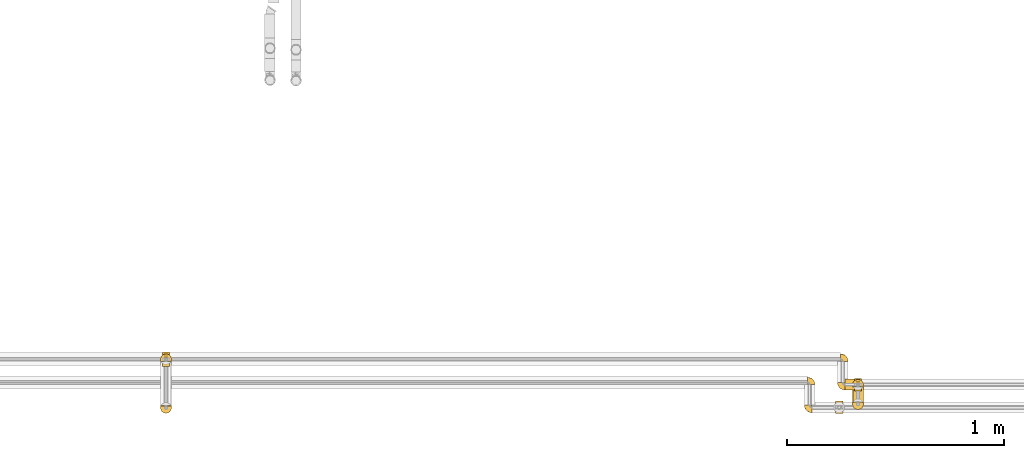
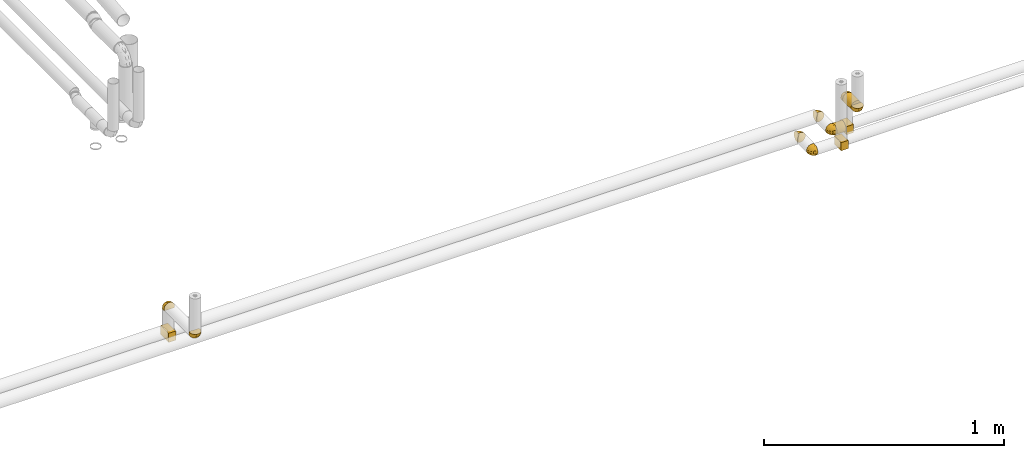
# One storey, part 12 of 156: 13 coverings.
"""IFC2X3 building model written with IfcOpenShell, lengths in millimetres."""

from ifc_helpers import new_model, entity, si_unit, converted_unit, derived_unit, direction, frame, origin_with_axes, origin_2d_with_axis, place, context, subcontext, project, spatial, hollow_circle, extrude, open_shell, surface_model, source, transform, mapped, element, save


model = new_model("IFC2X3")

# Units and contexts
model_context = context("Model", 3, precision=0.01, world=frame((0.0, 4.29681676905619e-09, 0.0)), true_north=direction((4.01073788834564e-13, 1.0)))
plan_context = context("Plan", 3, precision=0.01, world=frame((0.0, 4.29681676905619e-09, 0.0)), true_north=direction((4.01073788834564e-13, 1.0)))
body_context = subcontext(model_context, "Body", "Model", "MODEL_VIEW")
ifc_project = project(units=[converted_unit("PLANEANGLEUNIT", "DEGREE", entity("IfcPositiveLengthMeasure", 0.0174532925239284), si_unit("PLANEANGLEUNIT", "RADIAN"), dimensions=[0, 0, 0, 0, 0, 0, 0]), si_unit("AREAUNIT", "SQUARE_METRE"), si_unit("LENGTHUNIT", "METRE", prefix="MILLI"), si_unit("MASSUNIT", "GRAM", prefix="KILO"), si_unit("POWERUNIT", "WATT"), si_unit("PRESSUREUNIT", "PASCAL", prefix="KILO"), si_unit("FORCEUNIT", "NEWTON", prefix="KILO"), si_unit("ELECTRICVOLTAGEUNIT", "VOLT"), si_unit("ELECTRICCURRENTUNIT", "AMPERE"), si_unit("THERMODYNAMICTEMPERATUREUNIT", "DEGREE_CELSIUS"), si_unit("TIMEUNIT", "SECOND"), si_unit("VOLUMEUNIT", "CUBIC_METRE"), derived_unit("LINEARVELOCITYUNIT", [(si_unit("LENGTHUNIT", "METRE"), 1), (si_unit("TIMEUNIT", "SECOND"), -1)]), derived_unit("VOLUMETRICFLOWRATEUNIT", [(si_unit("VOLUMEUNIT", "CUBIC_METRE"), 1), (si_unit("TIMEUNIT", "SECOND"), -1)]), derived_unit("THERMALTRANSMITTANCEUNIT", [(si_unit("POWERUNIT", "WATT"), 1), (si_unit("THERMODYNAMICTEMPERATUREUNIT", "KELVIN"), -1), (si_unit("AREAUNIT", "SQUARE_METRE"), -1)]), derived_unit("SOUNDPRESSUREUNIT", [(si_unit("PRESSUREUNIT", "PASCAL"), 1)])], contexts=[model_context, plan_context])

# Site, building, storey
site_placement = place(None, frame((0.0, -4.29681676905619e-09, 0.0), z_axis=(0.0, 0.0, 1.0), x_axis=(1.0, 0.0, 0.0)))
site = spatial("IfcSite", under=ifc_project, at=site_placement, CompositionType="ELEMENT")
building_placement = place(site_placement, frame((0.0, 4.29681676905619e-09, 0.0), z_axis=(0.0, 0.0, 1.0), x_axis=(1.0, 0.0, 0.0)))
building = spatial("IfcBuilding", under=site, at=building_placement, Name="mc-building", CompositionType="ELEMENT")
storey_placement = place(building_placement, frame((0.0, 0.0, 205200.0), z_axis=(0.0, 0.0, 1.0), x_axis=(1.0, 0.0, 0.0)))
storey = spatial("IfcBuildingStorey", under=building, at=storey_placement, Name="Nivå D + 1,2 m", CompositionType="ELEMENT", Elevation=205200.0)

# Coverings
shared_shape_1 = source(origin_with_axes(), body_context, "Body", "SurfaceModel", [
    surface_model("IfcShellBasedSurfaceModel", [(-17.2, -12.9, 33.6), (-17.2, -12.9, -33.6), (17.2, -12.9, 33.6), (17.2, -12.9, -33.6), (17.2, 33.6, 33.6), (17.2, 33.6, -33.6), (-17.2, 33.6, 33.6), (-17.2, 33.6, -33.6)], [open_shell([[[0, 1, 2]], [[3, 2, 1]], [[4, 5, 6]], [[7, 6, 5]], [[3, 1, 7]], [[7, 5, 3]], [[2, 3, 5]], [[5, 4, 2]], [[0, 2, 4]], [[4, 6, 0]], [[1, 0, 6]], [[6, 7, 1]]])]),
])
covering_1_placement = place(storey_placement, frame((343033.7464, 459036.28651, 4203.32044000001), z_axis=(0.0, -1.0, 0.0), x_axis=(-1.0, 0.0, 0.0)))
element("IfcCovering", 1, at=covering_1_placement, inside=storey, Name="BI10T - Cellegummi 18-32 mm kalde rør", PredefinedType="INSULATION", context=body_context, shape_type="MappedRepresentation", body=[
    mapped(shared_shape_1, transform((0.0, 0.0, 0.0), scale=1.0)),
])
shared_shape_2 = source(origin_with_axes(), body_context, "Body", "SurfaceModel", [
    surface_model("IfcShellBasedSurfaceModel", [(15.59106, 10.0, 19.54275), (19.54869, 10.0, 15.5836), (22.52596, 10.0, 10.84348), (24.37392, 10.0, 5.55985), (-9.77037, 10.0, -23.01173), (0.0, 10.0, 25.0), (-4.97942, 10.0, 24.49909), (-9.77037, 10.0, 23.01173), (10.85104, 10.0, 22.52232), (5.5658, 10.0, 24.37256), (22.52232, 10.0, -10.85104), (25.0, 10.0, 0.0), (24.37256, 10.0, -5.5658), (19.54275, 10.0, -15.59106), (15.5836, 10.0, -19.54869), (5.55985, 10.0, -24.37392), (10.84348, 10.0, -22.52596), (0.0, 10.0, -25.0), (-4.9912, 10.0, -24.49669), (-10.0, 9.77037, -23.01173), (-10.0, 4.98531, -24.49789), (-10.0, -6.47048, -24.14815), (-10.0, 0.0, -25.0), (-10.0, 4.98531, 24.49789), (-10.0, 9.77037, 23.01173), (-10.0, -6.47048, 24.14815), (-10.0, 0.0, 25.0), (-10.0, -21.65064, -12.5), (-10.0, -12.5, -21.65064), (-10.0, -17.67767, -17.67767), (-10.0, -24.14815, -6.47048), (-10.0, -24.14815, 6.47048), (-10.0, -12.5, 21.65064), (-10.0, -17.67767, 17.67767), (-10.0, -21.65064, 12.5), (-10.0, -25.0, 0.0), (-9.83763, 9.83763, 23.01173), (-9.83763, 9.83763, -23.01173), (-1.77155, 10.0, -24.82136), (-2.92893, 2.92893, -25.0), (-10.0, 8.06996, -23.53985), (-1.3896, -21.95734, -9.56709), (-7.86085, 0.88606, -25.0), (-5.68917, -9.08632, -23.09699), (-5.36315, -4.22283, -24.50311), (-4.6967, 2.1967, -25.0), (-2.71409, -3.25736, -24.46852), (-6.46447, 1.46447, -25.0), (22.53316, 1.61684, -8.26039), (3.21095, -21.89405, -4.866), (7.5, -20.31089, 0.0), (-1.25, -22.65544, 0.0), (3.17946, -12.06338, -19.45532), (5.27461, -6.12177, -21.81624), (9.72857, -9.40748, -17.68104), (-3.4391, -14.35065, -19.83383), (4.06826, -0.2638, -23.87523), (-1.77213, 5.72171, -25.0), (3.88661, 3.60856, -24.43458), (-4.75202, -19.36863, -15.21904), (1.53075, -17.51544, -15.21903), (7.67625, 5.44566, -23.59828), (-0.88606, 7.86085, -25.0), (14.42882, -3.00424, -17.68085), (16.79904, 3.09507, -17.68104), (18.54659, -2.50557, -13.30472), (11.33935, 0.65183, -21.17041), (12.87257, 5.57259, -21.17041), (14.54589, -14.15965, -5.25667), (20.31089, -7.5, 0.0), (13.90544, -13.90544, 0.0), (22.87217, 2.05883, 0.0), (18.97848, -7.61639, -7.29177), (20.59771, 4.07738, -13.30472), (8.96866, -14.17466, -13.97642), (4.57514, -19.87727, -9.20711), (-3.48166, -23.93063, -4.71646), (14.48306, -9.91542, -12.65541), (9.8348, -4.24021, -20.42406), (0.09492, -2.30069, -24.29074), (9.05606, -18.86568, -4.51754), (-0.96493, -7.35622, -23.09699), (10.05347, -16.67379, -8.87636), (-1.39233, -21.95808, 9.56709), (-3.48164, -23.93063, 4.71647), (4.57401, -19.87688, 9.20924), (1.52377, -17.51836, 15.21903), (-4.75615, -19.36937, 15.21904), (9.84063, -4.2486, 20.41727), (4.0701, -0.26515, 23.87452), (5.2782, -6.12535, 21.8134), (12.87961, 5.56905, 21.16564), (16.80509, 3.09152, 17.6743), (0.09492, -2.30069, 24.29074), (-3.0591, -2.52707, 24.62367), (-0.96493, -7.35622, 23.09699), (14.4342, -3.00766, 17.67449), (11.3446, 0.6449, 21.16564), (-3.44118, -14.35121, 19.83383), (-1.77213, 5.72171, 25.0), (-2.92893, 2.92893, 25.0), (18.54877, -2.5125, 13.29713), (20.6018, 4.0734, 13.29713), (-5.68917, -9.08632, 23.09699), (-0.88606, 7.86085, 25.0), (7.68244, 5.44227, 23.59589), (3.17676, -12.06822, 19.45308), (18.98406, -7.61079, 7.28566), (-7.86085, 0.88606, 25.0), (22.53511, 1.61482, 8.25354), (14.48215, -9.92521, 12.64607), (-5.36315, -4.22283, 24.50311), (7.13366, 1.81046, 23.32756), (3.39597, 4.69308, 24.60817), (3.21089, -21.89392, 4.86669), (10.05368, -16.67251, 8.87873), (9.0575, -18.86452, 4.51846), (14.54887, -14.15599, 5.25871), (8.97545, -14.17456, 13.97032), (9.72597, -9.41973, 17.6743), (-4.6967, 2.1967, 25.0), (-6.46447, 1.46447, 25.0), (-8.0699, 10.0, 23.53965), (-10.0, 1.77158, 24.82157)], [open_shell([[[0, 1, 2]], [[2, 3, 0]], [[4, 5, 0]], [[6, 5, 7]], [[0, 5, 8]], [[7, 5, 4]], [[8, 5, 9]], [[0, 3, 10]], [[11, 12, 10]], [[10, 13, 14]], [[10, 4, 0]], [[4, 10, 14]], [[15, 14, 16]], [[14, 15, 4]], [[17, 18, 4]], [[17, 4, 15]], [[10, 3, 11]], [[19, 20, 21]], [[22, 21, 20]], [[19, 21, 23]], [[24, 19, 23]], [[25, 26, 23]], [[21, 25, 23]], [[21, 27, 25]], [[28, 29, 27]], [[30, 25, 27]], [[30, 31, 25]], [[32, 25, 33]], [[33, 31, 34]], [[31, 33, 25]], [[30, 35, 31]], [[27, 21, 28]], [[19, 24, 36]], [[37, 19, 36]], [[7, 4, 36]], [[37, 36, 4]], [[38, 17, 39]], [[18, 37, 4]], [[18, 40, 37]], [[20, 39, 22]], [[18, 38, 20]], [[20, 38, 39]], [[19, 37, 40]], [[20, 40, 18]], [[27, 41, 30]], [[21, 22, 42]], [[43, 28, 21]], [[21, 44, 43]], [[45, 46, 47]], [[10, 12, 48]], [[49, 50, 51]], [[52, 53, 54]], [[28, 55, 29]], [[56, 57, 58]], [[29, 59, 27]], [[27, 59, 41]], [[55, 60, 59]], [[16, 61, 15]], [[62, 15, 61]], [[63, 64, 65]], [[64, 14, 13]], [[66, 67, 64]], [[68, 69, 70]], [[16, 67, 61]], [[56, 39, 57]], [[12, 11, 71]], [[66, 64, 63]], [[65, 48, 72]], [[13, 10, 73]], [[60, 55, 52]], [[71, 72, 48]], [[73, 64, 13]], [[48, 73, 10]], [[65, 73, 48]], [[62, 17, 15]], [[67, 16, 14]], [[12, 71, 48]], [[58, 66, 56]], [[72, 71, 69]], [[43, 55, 28]], [[52, 54, 74]], [[60, 74, 75]], [[41, 49, 76]], [[54, 77, 74]], [[77, 65, 72]], [[66, 63, 78]], [[39, 56, 79]], [[70, 80, 68]], [[77, 54, 63]], [[49, 80, 50]], [[30, 76, 35]], [[64, 73, 65]], [[64, 67, 14]], [[61, 67, 66]], [[42, 44, 21]], [[55, 43, 81]], [[55, 81, 52]], [[79, 53, 81]], [[81, 53, 52]], [[78, 56, 66]], [[68, 77, 72]], [[80, 70, 50]], [[74, 77, 82]], [[42, 47, 44]], [[39, 79, 45]], [[81, 43, 44]], [[46, 81, 44]], [[79, 81, 46]], [[53, 79, 56]], [[76, 49, 51]], [[75, 49, 41]], [[35, 76, 51]], [[41, 76, 30]], [[77, 63, 65]], [[78, 54, 53]], [[54, 78, 63]], [[56, 78, 53]], [[75, 74, 82]], [[52, 74, 60]], [[55, 59, 29]], [[41, 59, 60]], [[60, 75, 41]], [[80, 75, 82]], [[75, 80, 49]], [[80, 82, 68]], [[77, 68, 82]], [[69, 68, 72]], [[58, 62, 61]], [[62, 58, 57]], [[66, 58, 61]], [[47, 46, 44]], [[45, 79, 46]], [[34, 31, 83]], [[35, 51, 84]], [[83, 85, 86]], [[83, 86, 87]], [[88, 89, 90]], [[91, 92, 0]], [[93, 94, 95]], [[96, 92, 97]], [[33, 98, 32]], [[89, 99, 100]], [[92, 101, 102]], [[103, 25, 32]], [[9, 104, 105]], [[86, 106, 98]], [[69, 71, 107]], [[25, 108, 26]], [[92, 1, 0]], [[109, 107, 71]], [[110, 107, 101]], [[109, 3, 2]], [[71, 11, 3]], [[33, 87, 98]], [[8, 91, 0]], [[108, 25, 111]], [[96, 101, 92]], [[33, 34, 87]], [[105, 8, 9]], [[97, 105, 112]], [[102, 109, 2]], [[91, 105, 97]], [[113, 89, 112]], [[2, 1, 102]], [[109, 101, 107]], [[113, 112, 105]], [[71, 3, 109]], [[51, 50, 114]], [[114, 85, 83]], [[115, 116, 117]], [[118, 115, 110]], [[86, 118, 106]], [[103, 98, 95]], [[90, 93, 95]], [[95, 106, 90]], [[101, 96, 110]], [[70, 117, 116]], [[51, 114, 84]], [[92, 102, 1]], [[109, 102, 101]], [[105, 91, 8]], [[92, 91, 97]], [[98, 103, 32]], [[111, 25, 103]], [[90, 106, 119]], [[107, 117, 69]], [[95, 98, 106]], [[119, 96, 88]], [[120, 93, 100]], [[118, 110, 119]], [[117, 110, 115]], [[108, 111, 121]], [[103, 95, 111]], [[120, 94, 93]], [[90, 89, 93]], [[111, 94, 121]], [[89, 100, 93]], [[116, 114, 50]], [[84, 83, 31]], [[83, 84, 114]], [[35, 84, 31]], [[88, 96, 97]], [[110, 96, 119]], [[88, 97, 112]], [[119, 88, 90]], [[106, 118, 119]], [[85, 118, 86]], [[83, 87, 34]], [[98, 87, 86]], [[70, 116, 50]], [[85, 116, 115]], [[69, 117, 70]], [[110, 117, 107]], [[116, 85, 114]], [[85, 115, 118]], [[104, 9, 5]], [[99, 113, 104]], [[88, 112, 89]], [[104, 113, 105]], [[89, 113, 99]], [[121, 94, 120]], [[95, 94, 111]], [[122, 7, 36]], [[6, 100, 5]], [[6, 123, 100]], [[23, 36, 24]], [[23, 123, 6]], [[23, 122, 36]], [[26, 100, 123]], [[6, 122, 23]]])]),
])
for number, where, z_axis, x_axis in (
    (2, (343033.7464, 459036.28651, 4328.32044000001), (1.0, 0.0, 0.0), (0.0, 0.0, 1.0)),
    (3, (343033.7464, 458811.28651, 4328.32044000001), (-1.0, 0.0, 0.0), (0.0, -1.0, 0.0)),
    (4, (346005.0, 458928.61963, 4216.68835000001), (0.0, 0.0, 1.0), (0.0, 1.0, 0.0)),
    (5, (346005.0, 458813.61963, 4216.68835000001), (0.0, 0.0, 1.0), (0.0, -1.0, 0.0)),
    (6, (346228.06078, 458918.61963, 4348.32044000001), (1.0, 0.0, 0.0), (0.0, 0.0, 1.0)),
    (7, (346228.06078, 458828.61963, 4348.32044000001), (-1.0, 0.0, 0.0), (0.0, -1.0, 0.0)),
):
    element("IfcCovering", number, at=place(storey_placement, frame(where, z_axis=z_axis, x_axis=x_axis)), inside=storey, Name="BI10T - Cellegummi 18-32 mm kalde rør", PredefinedType="INSULATION", context=body_context, shape_type="MappedRepresentation", body=[
        mapped(shared_shape_2, transform((0.0, 0.0, 0.0), scale=1.0)),
    ])
shared_shape_3 = source(origin_with_axes(), body_context, "Body", "SweptSolid", [
    extrude(hollow_circle(Radius=25.0, WallThickness=20.0, at=origin_2d_with_axis()), frame((0.0, 0.0, 0.0), z_axis=(1.0, 0.0, 0.0), x_axis=(0.0, 1.0, 0.0)), (0.0, 0.0, 1.0), 70.0),
])
covering_2_placement = place(storey_placement, frame((346228.06078, 458908.61963, 4348.32044000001), z_axis=(0.0, 0.0, 1.0), x_axis=(0.0, -1.0, 0.0)))
element("IfcCovering", 8, at=covering_2_placement, inside=storey, Name="BI10T - Cellegummi 18-32 mm kalde rør", PredefinedType="INSULATION", context=body_context, shape_type="MappedRepresentation", body=[
    mapped(shared_shape_3, transform((0.0, 0.0, 0.0), scale=1.0)),
])
shared_shape_4 = source(origin_with_axes(), body_context, "Body", "SurfaceModel", [
    surface_model("IfcShellBasedSurfaceModel", [(-4.97942, 10.0, 24.49909), (0.0, 10.0, 25.0), (-9.77037, 10.0, 23.01173), (10.85104, 10.0, 22.52232), (5.5658, 10.0, 24.37256), (25.0, 10.0, 0.0), (24.37256, 10.0, -5.5658), (22.52232, 10.0, -10.85104), (19.54275, 10.0, -15.59106), (15.5836, 10.0, -19.54869), (-9.77037, 10.0, -23.01173), (0.0, 10.0, -25.0), (-4.9912, 10.0, -24.49669), (5.55985, 10.0, -24.37392), (-10.0, 9.77037, -23.01173), (-10.0, 4.98531, -24.49789), (-10.0, -6.47048, -24.14815), (-10.0, 0.0, -25.0), (-10.0, 4.98531, 24.49789), (-10.0, 9.77037, 23.01173), (-10.0, -6.47048, 24.14815), (-10.0, 0.0, 25.0), (-10.0, -21.65064, -12.5), (-10.0, -12.5, -21.65064), (-10.0, -17.67767, -17.67767), (-10.0, -24.14815, -6.47048), (-10.0, -24.14815, 6.47048), (-10.0, -12.5, 21.65064), (-10.0, -17.67767, 17.67767), (-10.0, -21.65064, 12.5), (-10.0, -25.0, 0.0), (-9.83763, 9.83763, 23.01173), (-9.83763, 9.83763, -23.01173), (-1.77155, 10.0, -24.82136), (-2.92893, 2.92893, -25.0), (-10.0, 8.06996, -23.53985), (-1.3896, -21.95734, -9.56709), (-7.86085, 0.88606, -25.0), (-5.68917, -9.08632, -23.09699), (-5.36315, -4.22283, -24.50311), (-4.6967, 2.1967, -25.0), (-2.71409, -3.25736, -24.46852), (-6.46447, 1.46447, -25.0), (22.53316, 1.61684, -8.26039), (3.21095, -21.89405, -4.866), (7.5, -20.31089, 0.0), (-1.25, -22.65544, 0.0), (3.17946, -12.06338, -19.45532), (5.27461, -6.12177, -21.81624), (9.72857, -9.40748, -17.68104), (-3.4391, -14.35065, -19.83383), (4.06826, -0.2638, -23.87523), (-1.77213, 5.72171, -25.0), (3.88661, 3.60856, -24.43458), (-4.75202, -19.36863, -15.21904), (1.53075, -17.51544, -15.21903), (10.84348, 10.0, -22.52596), (7.67625, 5.44566, -23.59828), (-0.88606, 7.86085, -25.0), (14.42882, -3.00424, -17.68085), (16.79904, 3.09507, -17.68104), (18.54659, -2.50557, -13.30472), (11.33935, 0.65183, -21.17041), (12.87257, 5.57259, -21.17041), (14.54589, -14.15965, -5.25667), (20.31089, -7.5, 0.0), (13.90544, -13.90544, 0.0), (22.87217, 2.05883, 0.0), (18.97848, -7.61639, -7.29177), (20.59771, 4.07738, -13.30472), (8.96866, -14.17466, -13.97642), (4.57514, -19.87727, -9.20711), (-3.48166, -23.93063, -4.71646), (14.48306, -9.91542, -12.65541), (9.8348, -4.24021, -20.42406), (0.09492, -2.30069, -24.29074), (9.05606, -18.86568, -4.51754), (-0.96493, -7.35622, -23.09699), (10.05347, -16.67379, -8.87636), (-1.39233, -21.95808, 9.56709), (-3.48164, -23.93063, 4.71647), (4.57401, -19.87688, 9.20924), (1.52377, -17.51836, 15.21903), (-4.75615, -19.36937, 15.21904), (9.84063, -4.2486, 20.41727), (4.0701, -0.26515, 23.87452), (5.2782, -6.12535, 21.8134), (12.87961, 5.56905, 21.16564), (16.80509, 3.09152, 17.6743), (15.59106, 10.0, 19.54275), (0.09492, -2.30069, 24.29074), (-3.0591, -2.52707, 24.62367), (-0.96493, -7.35622, 23.09699), (14.4342, -3.00766, 17.67449), (11.3446, 0.6449, 21.16564), (-3.44118, -14.35121, 19.83383), (-1.77213, 5.72171, 25.0), (-2.92893, 2.92893, 25.0), (18.54877, -2.5125, 13.29713), (20.6018, 4.0734, 13.29713), (-5.68917, -9.08632, 23.09699), (-0.88606, 7.86085, 25.0), (7.68244, 5.44227, 23.59589), (3.17676, -12.06822, 19.45308), (18.98406, -7.61079, 7.28566), (-7.86085, 0.88606, 25.0), (19.54869, 10.0, 15.5836), (22.53511, 1.61482, 8.25354), (14.48215, -9.92521, 12.64607), (24.37392, 10.0, 5.55985), (22.52596, 10.0, 10.84348), (-5.36315, -4.22283, 24.50311), (7.13366, 1.81046, 23.32756), (3.39597, 4.69308, 24.60817), (3.21089, -21.89392, 4.86669), (10.05368, -16.67251, 8.87873), (9.0575, -18.86452, 4.51846), (14.54887, -14.15599, 5.25871), (8.97545, -14.17456, 13.97032), (9.72597, -9.41973, 17.6743), (-4.6967, 2.1967, 25.0), (-6.46447, 1.46447, 25.0), (-8.0699, 10.0, 23.53965), (-10.0, 1.77158, 24.82157)], [open_shell([[[0, 1, 2]], [[3, 1, 4]], [[5, 6, 7]], [[7, 8, 9]], [[10, 7, 9]], [[11, 12, 10]], [[11, 10, 13]], [[14, 15, 16]], [[17, 16, 15]], [[14, 16, 18]], [[19, 14, 18]], [[20, 21, 18]], [[16, 20, 18]], [[16, 22, 20]], [[23, 24, 22]], [[25, 20, 22]], [[25, 26, 20]], [[27, 20, 28]], [[28, 26, 29]], [[26, 28, 20]], [[25, 30, 26]], [[22, 16, 23]], [[14, 19, 31]], [[32, 14, 31]], [[2, 10, 31]], [[32, 31, 10]], [[33, 11, 34]], [[12, 32, 10]], [[12, 35, 32]], [[15, 34, 17]], [[12, 33, 15]], [[15, 33, 34]], [[14, 32, 35]], [[15, 35, 12]], [[22, 36, 25]], [[16, 17, 37]], [[38, 23, 16]], [[16, 39, 38]], [[40, 41, 42]], [[7, 6, 43]], [[44, 45, 46]], [[47, 48, 49]], [[23, 50, 24]], [[51, 52, 53]], [[24, 54, 22]], [[22, 54, 36]], [[50, 55, 54]], [[56, 57, 13]], [[58, 13, 57]], [[59, 60, 61]], [[60, 9, 8]], [[62, 63, 60]], [[64, 65, 66]], [[56, 63, 57]], [[51, 34, 52]], [[6, 5, 67]], [[62, 60, 59]], [[61, 43, 68]], [[8, 7, 69]], [[55, 50, 47]], [[67, 68, 43]], [[69, 60, 8]], [[43, 69, 7]], [[61, 69, 43]], [[58, 11, 13]], [[63, 56, 9]], [[6, 67, 43]], [[53, 62, 51]], [[68, 67, 65]], [[38, 50, 23]], [[47, 49, 70]], [[55, 70, 71]], [[36, 44, 72]], [[49, 73, 70]], [[73, 61, 68]], [[62, 59, 74]], [[34, 51, 75]], [[66, 76, 64]], [[73, 49, 59]], [[44, 76, 45]], [[25, 72, 30]], [[60, 69, 61]], [[60, 63, 9]], [[57, 63, 62]], [[37, 39, 16]], [[50, 38, 77]], [[50, 77, 47]], [[75, 48, 77]], [[77, 48, 47]], [[74, 51, 62]], [[64, 73, 68]], [[76, 66, 45]], [[70, 73, 78]], [[37, 42, 39]], [[34, 75, 40]], [[77, 38, 39]], [[41, 77, 39]], [[75, 77, 41]], [[48, 75, 51]], [[72, 44, 46]], [[71, 44, 36]], [[30, 72, 46]], [[36, 72, 25]], [[73, 59, 61]], [[74, 49, 48]], [[49, 74, 59]], [[51, 74, 48]], [[71, 70, 78]], [[47, 70, 55]], [[50, 54, 24]], [[36, 54, 55]], [[55, 71, 36]], [[76, 71, 78]], [[71, 76, 44]], [[76, 78, 64]], [[73, 64, 78]], [[65, 64, 68]], [[53, 58, 57]], [[58, 53, 52]], [[62, 53, 57]], [[42, 41, 39]], [[40, 75, 41]], [[29, 26, 79]], [[30, 46, 80]], [[79, 81, 82]], [[79, 82, 83]], [[84, 85, 86]], [[87, 88, 89]], [[90, 91, 92]], [[93, 88, 94]], [[28, 95, 27]], [[85, 96, 97]], [[88, 98, 99]], [[100, 20, 27]], [[4, 101, 102]], [[82, 103, 95]], [[65, 67, 104]], [[20, 105, 21]], [[88, 106, 89]], [[107, 104, 67]], [[108, 104, 98]], [[107, 109, 110]], [[67, 5, 109]], [[28, 83, 95]], [[3, 87, 89]], [[105, 20, 111]], [[93, 98, 88]], [[28, 29, 83]], [[102, 3, 4]], [[94, 102, 112]], [[99, 107, 110]], [[87, 102, 94]], [[113, 85, 112]], [[110, 106, 99]], [[107, 98, 104]], [[113, 112, 102]], [[67, 109, 107]], [[46, 45, 114]], [[114, 81, 79]], [[115, 116, 117]], [[118, 115, 108]], [[82, 118, 103]], [[100, 95, 92]], [[86, 90, 92]], [[92, 103, 86]], [[98, 93, 108]], [[66, 117, 116]], [[46, 114, 80]], [[88, 99, 106]], [[107, 99, 98]], [[102, 87, 3]], [[88, 87, 94]], [[95, 100, 27]], [[111, 20, 100]], [[86, 103, 119]], [[104, 117, 65]], [[92, 95, 103]], [[119, 93, 84]], [[120, 90, 97]], [[118, 108, 119]], [[117, 108, 115]], [[105, 111, 121]], [[100, 92, 111]], [[120, 91, 90]], [[86, 85, 90]], [[111, 91, 121]], [[85, 97, 90]], [[116, 114, 45]], [[80, 79, 26]], [[79, 80, 114]], [[30, 80, 26]], [[84, 93, 94]], [[108, 93, 119]], [[84, 94, 112]], [[119, 84, 86]], [[103, 118, 119]], [[81, 118, 82]], [[79, 83, 29]], [[95, 83, 82]], [[66, 116, 45]], [[81, 116, 115]], [[65, 117, 66]], [[108, 117, 104]], [[116, 81, 114]], [[81, 115, 118]], [[101, 4, 1]], [[96, 113, 101]], [[84, 112, 85]], [[101, 113, 102]], [[85, 113, 96]], [[121, 91, 120]], [[92, 91, 111]], [[122, 2, 31]], [[0, 97, 1]], [[0, 123, 97]], [[18, 31, 19]], [[18, 123, 0]], [[18, 122, 31]], [[21, 97, 123]], [[0, 122, 18]], [[89, 106, 109]], [[110, 109, 106]], [[3, 89, 10]], [[1, 10, 2]], [[3, 10, 1]], [[10, 89, 109]], [[5, 7, 10]], [[56, 10, 9]], [[10, 56, 13]], [[5, 10, 109]]])]),
])
for number, where, z_axis, x_axis in (
    (9, (346157.5, 459036.28638, 4203.32044000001), (0.0, 0.0, 1.0), (0.0, 1.0, 0.0)),
    (10, (346157.5, 458918.61963, 4203.32044000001), (0.0, 0.0, 1.0), (0.0, -1.0, 0.0)),
):
    element("IfcCovering", number, at=place(storey_placement, frame(where, z_axis=z_axis, x_axis=x_axis)), inside=storey, Name="BI10T - Cellegummi 18-32 mm kalde rør", PredefinedType="INSULATION", context=body_context, shape_type="MappedRepresentation", body=[
        mapped(shared_shape_4, transform((0.0, 0.0, 0.0), scale=1.0)),
    ])
shared_shape_5 = source(origin_with_axes(), body_context, "Body", "SurfaceModel", [
    surface_model("IfcShellBasedSurfaceModel", [(17.2, -12.9, -28.6), (17.2, -12.9, 28.6), (-17.2, -12.9, 28.6), (-17.2, -12.9, -28.6), (-17.2, 28.6, -28.6), (-17.2, 28.6, 28.6), (17.2, 28.6, 28.6), (17.2, 28.6, -28.6)], [open_shell([[[0, 1, 2]], [[2, 3, 0]], [[4, 5, 6]], [[6, 7, 4]], [[2, 1, 6]], [[6, 5, 2]], [[3, 2, 5]], [[5, 4, 3]], [[0, 3, 4]], [[4, 7, 0]], [[1, 0, 7]], [[7, 6, 1]]])]),
])
for number, where, z_axis, x_axis in (
    (11, (346228.06078, 458918.61963, 4203.32044000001), (0.0, -1.0, 0.0), (-1.0, 0.0, 0.0)),
    (12, (346141.60779, 458813.61963, 4216.68835000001), (0.0, -1.0, 0.0), (-1.0, 0.0, 0.0)),
):
    element("IfcCovering", number, at=place(storey_placement, frame(where, z_axis=z_axis, x_axis=x_axis)), inside=storey, Name="BI10T - Cellegummi 18-32 mm kalde rør", PredefinedType="INSULATION", context=body_context, shape_type="MappedRepresentation", body=[
        mapped(shared_shape_5, transform((0.0, 0.0, 0.0), scale=1.0)),
    ])
shared_shape_6 = source(origin_with_axes(), body_context, "Body", "SweptSolid", [
    extrude(hollow_circle(Radius=25.0, WallThickness=20.0, at=origin_2d_with_axis()), frame((0.0, 0.0, 0.0), z_axis=(1.0, 0.0, 0.0), x_axis=(0.0, 1.0, 0.0)), (0.0, 0.0, 1.0), 43.4),
])
covering_3_placement = place(storey_placement, frame((346167.5, 458918.61963, 4203.32044000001), z_axis=(0.0, 0.0, 1.0), x_axis=(1.0, 0.0, 0.0)))
element("IfcCovering", 13, at=covering_3_placement, inside=storey, Name="BI10T - Cellegummi 18-32 mm kalde rør", PredefinedType="INSULATION", context=body_context, shape_type="MappedRepresentation", body=[
    mapped(shared_shape_6, transform((0.0, 0.0, 0.0), scale=1.0)),
])

save(model, "model.ifc")
